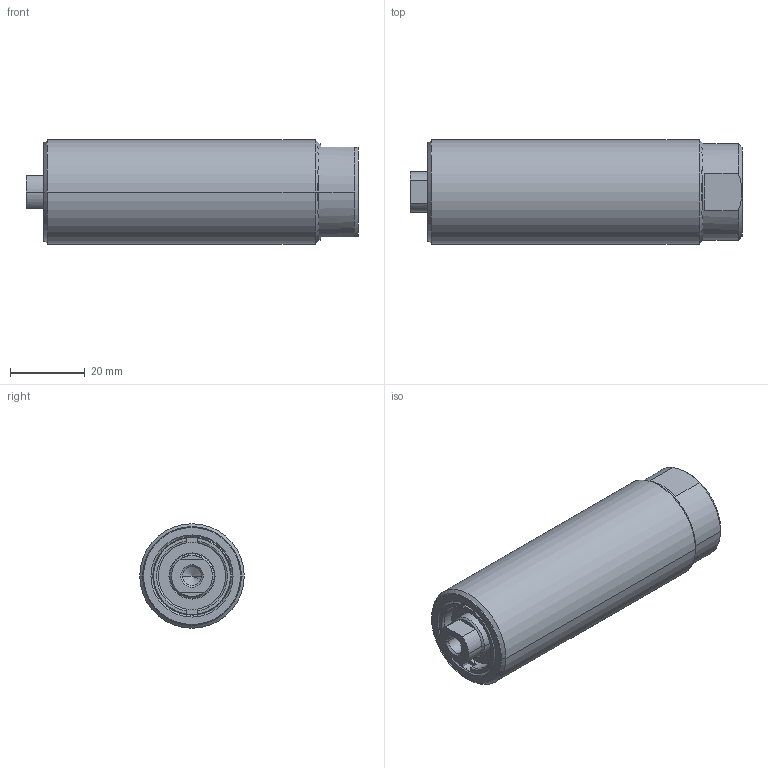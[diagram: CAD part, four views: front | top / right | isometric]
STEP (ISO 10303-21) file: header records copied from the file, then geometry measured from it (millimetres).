
FILE_DESCRIPTION((''),'2;1');
FILE_NAME('CST-10252_ASM','2010-11-23T',('chad.steele'),(''),'PRO/ENGINEER BY PARAMETRIC TECHNOLOGY CORPORATION, 2010040','PRO/ENGINEER BY PARAMETRIC TECHNOLOGY CORPORATION, 2010040','');
FILE_SCHEMA(('CONFIG_CONTROL_DESIGN'));
Length unit declared in the file: millimetre
Products named in the file (4): DC6055030; DC6037044; DC4663040; CST-10252_ASM
Assembly tree (3 placements, depth 2):
  CST-10252_ASM
    DC6055030
    DC6037044
    DC4663040
Bounding box: 89 x 28 x 28 mm (x, y, z)
Volume: 38923.5 mm3; surface area: 26803.2 mm2
Topology: 3 solids, 8 shells, 122 faces, 289 edges, 178 vertices
Faces by surface type: plane 42, cylinder 40, cone 28, torus 12
Entity records: 3737 total; most frequent: CARTESIAN_POINT 724, DIRECTION 679, ORIENTED_EDGE 550, EDGE_CURVE 285, AXIS2_PLACEMENT_3D 273, VERTEX_POINT 178, CIRCLE 138, EDGE_LOOP 135
